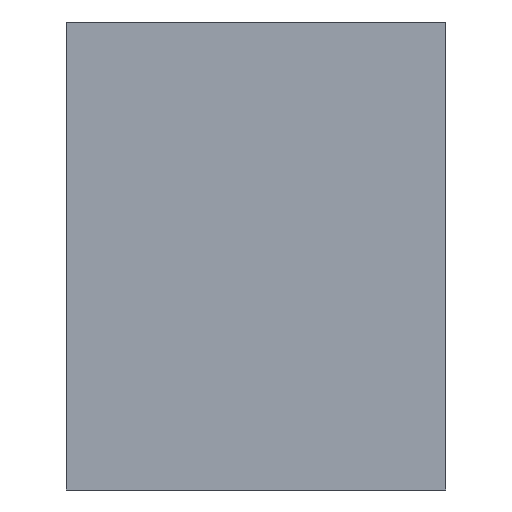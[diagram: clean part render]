
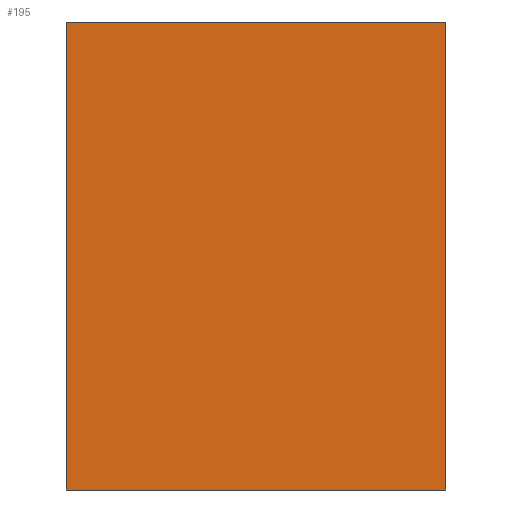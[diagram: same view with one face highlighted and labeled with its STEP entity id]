
A CAD part, left-side view. The second image highlights one B-rep face of the part: STEP entity #195.
In plain terms, the highlighted planar face has unit normal (-1, 0, 0).
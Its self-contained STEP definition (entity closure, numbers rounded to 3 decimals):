
#144=VECTOR('Line Direction',#143,1.) ;
#172=VECTOR('Line Direction',#171,1.) ;
#179=VECTOR('Line Direction',#178,1.) ;
#186=VECTOR('Line Direction',#185,1.) ;
#143=DIRECTION('Vector Direction',(0.,-1.,0.)) ;
#166=DIRECTION('Axis2P3D Direction',(-1.,-0.,0.)) ;
#167=DIRECTION('Axis2P3D XDirection',(0.,-1.,-0.)) ;
#171=DIRECTION('Vector Direction',(0.,0.,1.)) ;
#178=DIRECTION('Vector Direction',(0.,0.,1.)) ;
#185=DIRECTION('Vector Direction',(0.,-1.,0.)) ;
#139=CARTESIAN_POINT('Vertex',(925.,-734.,115.)) ;
#142=CARTESIAN_POINT('Line Origine',(925.,-741.5,115.)) ;
#146=CARTESIAN_POINT('Vertex',(925.,-749.,115.)) ;
#165=CARTESIAN_POINT('Axis2P3D Location',(925.,-734.,107.5)) ;
#170=CARTESIAN_POINT('Line Origine',(925.,-749.,109.106)) ;
#174=CARTESIAN_POINT('Vertex',(925.,-749.,96.5)) ;
#177=CARTESIAN_POINT('Line Origine',(925.,-734.,109.106)) ;
#181=CARTESIAN_POINT('Vertex',(925.,-734.,96.5)) ;
#184=CARTESIAN_POINT('Line Origine',(925.,-734.,96.5)) ;
#168=AXIS2_PLACEMENT_3D('Plane Axis2P3D',#165,#166,#167) ;
#148=EDGE_CURVE('',#140,#147,#145,.T.) ;
#176=EDGE_CURVE('',#147,#175,#173,.F.) ;
#183=EDGE_CURVE('',#140,#182,#180,.F.) ;
#188=EDGE_CURVE('',#182,#175,#187,.T.) ;
#169=PLANE('Plane',#168) ;
#190=ORIENTED_EDGE('',*,*,#176,.F.) ;
#191=ORIENTED_EDGE('',*,*,#148,.F.) ;
#192=ORIENTED_EDGE('',*,*,#183,.T.) ;
#193=ORIENTED_EDGE('',*,*,#188,.T.) ;
#145=LINE('Line',#142,#144) ;
#173=LINE('Line',#170,#172) ;
#180=LINE('Line',#177,#179) ;
#187=LINE('Line',#184,#186) ;
#195=ADVANCED_FACE('CNC 20240618',(#194),#169,.T.) ;
#140=VERTEX_POINT('',#139) ;
#147=VERTEX_POINT('',#146) ;
#175=VERTEX_POINT('',#174) ;
#182=VERTEX_POINT('',#181) ;
#189=EDGE_LOOP('',(#190,#191,#192,#193)) ;
#194=FACE_OUTER_BOUND('',#189,.T.) ;
